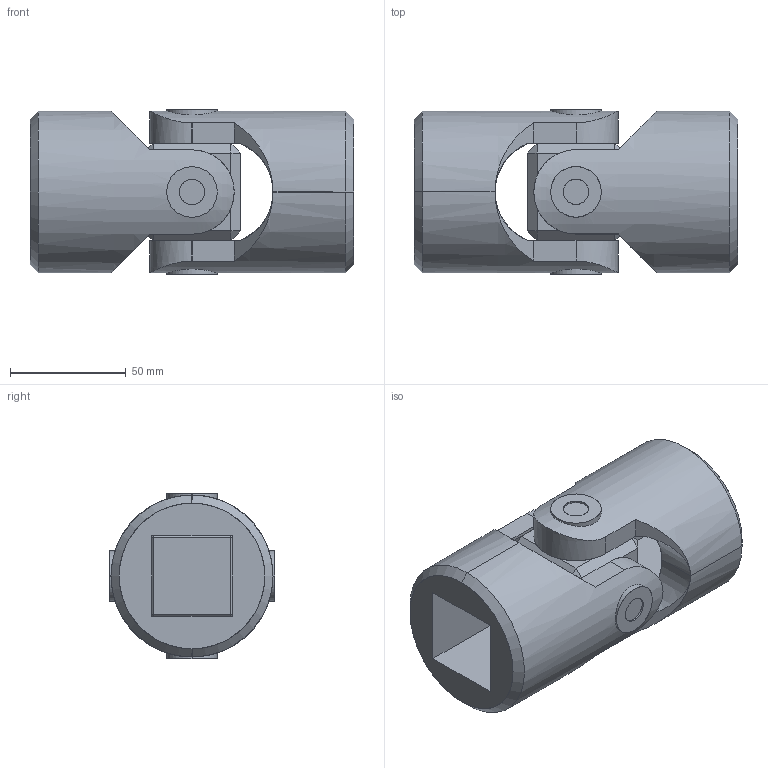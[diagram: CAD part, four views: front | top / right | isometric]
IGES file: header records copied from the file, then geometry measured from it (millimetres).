
Start section: SolidWorks IGES file using analytic representation for surfaces
Global section: file name: C:\Users\IanO\Desktop\R3690_v2\R3690_v2_20231020_IGES\R3690.035-SB.igs; native system: SolidWorks 2019; preprocessor: SolidWorks 2019; author: IanO; date: 231020.153114; units: millimetre
Bounding box: 140 x 71.4 x 71.4 mm (x, y, z)
Surface area: 77590.5 mm2 (no closed solid volume)
Topology: 0 solids, 0 shells, 108 faces, 2264 edges, 2264 vertices
Faces by surface type: bspline 64, revolution 44
